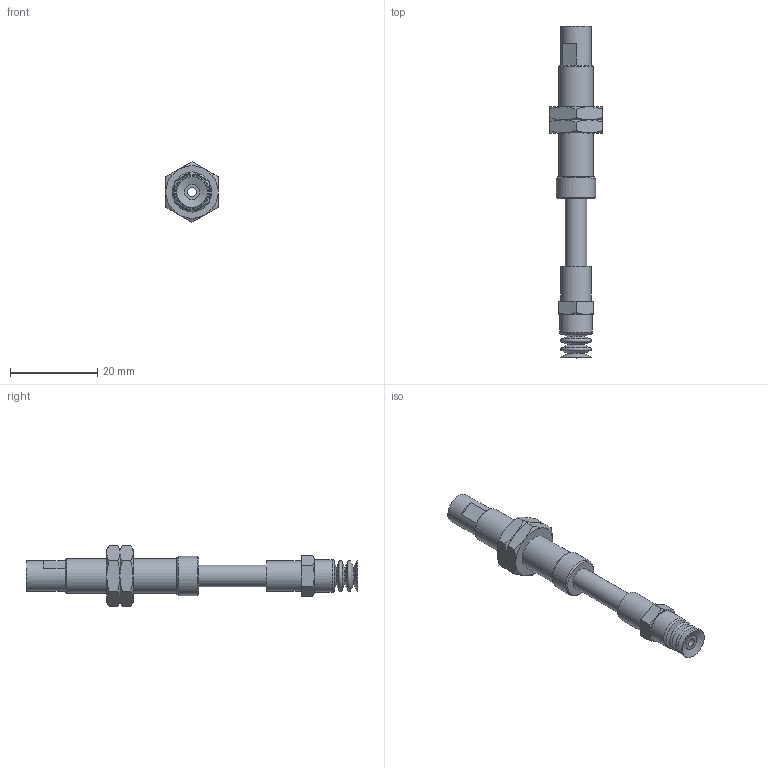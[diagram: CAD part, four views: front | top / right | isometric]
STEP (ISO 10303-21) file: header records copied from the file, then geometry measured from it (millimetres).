
FILE_DESCRIPTION(('STEP AP203'),'1');
FILE_NAME('-SPE.stp','2025-04-04T02:44:30',(' '),(' '),'Spatial InterOp 3D',' ',' ');
FILE_SCHEMA(('CONFIG_CONTROL_DESIGN'));
Length unit declared in the file: millimetre
Products named in the file (9): BNABPCTS-7-15-※-SPE; NUT; BODY; STOPPER; ZIG; TN-PS-10-M5; Setting screws-TN-PS-10-M5; BPCG-7-※
Assembly tree (8 placements, depth 3):
  BNABPCTS-7-15-※-SPE
    NUT
    NUT
    BODY
    STOPPER
    ZIG
    TN-PS-10-M5
      Setting screws-TN-PS-10-M5
    BPCG-7-※
Bounding box: 12 x 76 x 13.86 mm (x, y, z)
Volume: 3044.1 mm3; surface area: 4686.2 mm2
Topology: 7 solids, 7 shells, 151 faces, 308 edges, 184 vertices
Faces by surface type: plane 61, cone 52, cylinder 26, torus 12
Full cylindrical faces by diameter (mm): 2 x3, 3.4 x1, 3.5 x1, 3.9 x1, 4 x5, 4.2 x2, 5 x3, 5.2 x1, 6 x2, 7 x2, 7.25 x2, 7.5 x1, 8 x1, 9 x1
Entity records: 4072 total; most frequent: CARTESIAN_POINT 757, DIRECTION 622, ORIENTED_EDGE 476, AXIS2_PLACEMENT_3D 283, EDGE_LOOP 238, EDGE_CURVE 238, FACE_OUTER_BOUND 189, VERTEX_POINT 174
